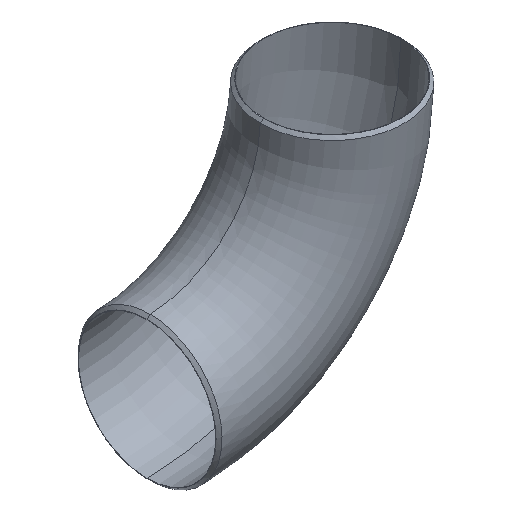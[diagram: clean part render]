
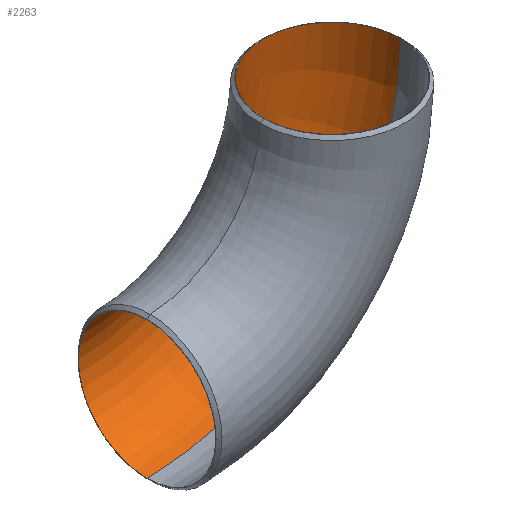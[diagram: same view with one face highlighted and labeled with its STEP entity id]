
A CAD part, isometric view. The second image highlights one B-rep face of the part: STEP entity #2263.
In plain terms, the highlighted toroidal (fillet/blend) face has major radius 190.5 mm and minor radius 70.65 mm.
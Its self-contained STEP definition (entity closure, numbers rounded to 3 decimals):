
#79 = DIRECTION ( 'NONE',  ( 0., -1., 0. ) ) ;
#343 = FACE_OUTER_BOUND ( 'NONE', #2259, .T. ) ;
#395 = AXIS2_PLACEMENT_3D ( 'NONE', #1101, #1059, #3639 ) ;
#400 = CARTESIAN_POINT ( 'NONE',  ( 0., 0., 0. ) ) ;
#425 = ORIENTED_EDGE ( 'NONE', *, *, #761, .F. ) ;
#426 = CARTESIAN_POINT ( 'NONE',  ( 0., 0., 0. ) ) ;
#450 = DIRECTION ( 'NONE',  ( 1., 0., 0. ) ) ;
#623 = CARTESIAN_POINT ( 'NONE',  ( 0., 0., -261.15 ) ) ;
#733 = CARTESIAN_POINT ( 'NONE',  ( 0., 0., -119.85 ) ) ;
#761 = EDGE_CURVE ( 'NONE', #1693, #1901, #3450, .T. ) ;
#954 = VERTEX_POINT ( 'NONE', #623 ) ;
#1059 = DIRECTION ( 'NONE',  ( 0., 0., 1. ) ) ;
#1101 = CARTESIAN_POINT ( 'NONE',  ( 190.5, 0., 0. ) ) ;
#1290 = CIRCLE ( 'NONE', #3648, 70.65 ) ;
#1308 = DIRECTION ( 'NONE',  ( 0., 0., -1. ) ) ;
#1375 = DIRECTION ( 'NONE',  ( 0., 0., -1. ) ) ;
#1385 = DIRECTION ( 'NONE',  ( 0., 0., -1. ) ) ;
#1626 = CARTESIAN_POINT ( 'NONE',  ( 0., 0., 0. ) ) ;
#1628 = AXIS2_PLACEMENT_3D ( 'NONE', #426, #1713, #2997 ) ;
#1642 = EDGE_CURVE ( 'NONE', #954, #3214, #3111, .T. ) ;
#1693 = VERTEX_POINT ( 'NONE', #733 ) ;
#1713 = DIRECTION ( 'NONE',  ( 0., -1., 0. ) ) ;
#1901 = VERTEX_POINT ( 'NONE', #3609 ) ;
#1968 = AXIS2_PLACEMENT_3D ( 'NONE', #1626, #3272, #1308 ) ;
#2259 = EDGE_LOOP ( 'NONE', ( #3316, #3509, #3193, #425 ) ) ;
#2263 = ADVANCED_FACE ( 'NONE', ( #343 ), #3250, .F. ) ;
#2349 = CIRCLE ( 'NONE', #395, 70.65 ) ;
#2802 = CARTESIAN_POINT ( 'NONE',  ( 261.15, 0., 0. ) ) ;
#2829 = EDGE_CURVE ( 'NONE', #954, #1693, #1290, .T. ) ;
#2997 = DIRECTION ( 'NONE',  ( 0., 0., -1. ) ) ;
#3002 = EDGE_CURVE ( 'NONE', #3214, #1901, #2349, .T. ) ;
#3111 = CIRCLE ( 'NONE', #3790, 261.15 ) ;
#3193 = ORIENTED_EDGE ( 'NONE', *, *, #3002, .T. ) ;
#3214 = VERTEX_POINT ( 'NONE', #2802 ) ;
#3250 = TOROIDAL_SURFACE ( 'NONE', #1968, 190.5, 70.65 ) ;
#3272 = DIRECTION ( 'NONE',  ( 0., -1., 0. ) ) ;
#3316 = ORIENTED_EDGE ( 'NONE', *, *, #2829, .F. ) ;
#3450 = CIRCLE ( 'NONE', #1628, 119.85 ) ;
#3509 = ORIENTED_EDGE ( 'NONE', *, *, #1642, .T. ) ;
#3609 = CARTESIAN_POINT ( 'NONE',  ( 119.85, 0., 0. ) ) ;
#3639 = DIRECTION ( 'NONE',  ( 1., 0., 0. ) ) ;
#3648 = AXIS2_PLACEMENT_3D ( 'NONE', #3973, #450, #1375 ) ;
#3790 = AXIS2_PLACEMENT_3D ( 'NONE', #400, #79, #1385 ) ;
#3973 = CARTESIAN_POINT ( 'NONE',  ( 0., 0., -190.5 ) ) ;
